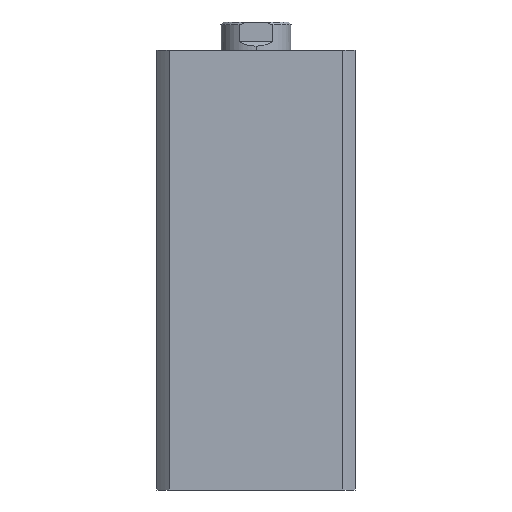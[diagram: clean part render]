
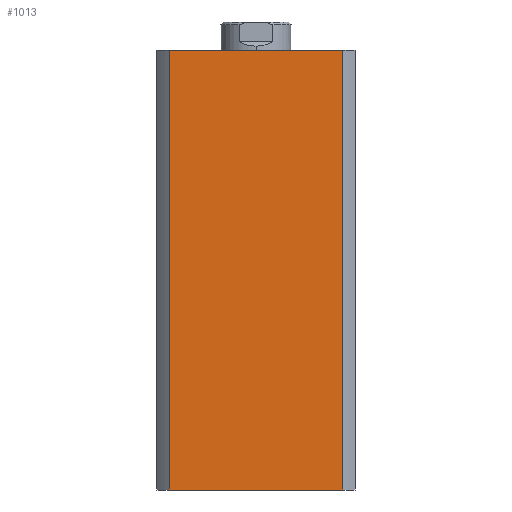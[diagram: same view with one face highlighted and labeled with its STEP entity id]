
A CAD part, left-side view. The second image highlights one B-rep face of the part: STEP entity #1013.
In plain terms, the highlighted planar face has unit normal (-1, 0, 0).
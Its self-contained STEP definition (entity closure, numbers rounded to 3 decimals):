
#172 = EDGE_CURVE ( 'NONE', #2129, #2143, #945, .T. ) ;
#298 = EDGE_CURVE ( 'NONE', #2074, #2007, #598, .T. ) ;
#521 = FACE_OUTER_BOUND ( 'NONE', #4034, .T. ) ;
#598 = LINE ( 'NONE', #1298, #601 ) ;
#601 = VECTOR ( 'NONE', #1297, 1000. ) ;
#941 = VECTOR ( 'NONE', #1172, 1000. ) ;
#945 = LINE ( 'NONE', #1170, #941 ) ;
#1013 = ADVANCED_FACE ( 'NONE', ( #521 ), #2445, .F. ) ;
#1170 = CARTESIAN_POINT ( 'NONE',  ( -35., 0., 0. ) ) ;
#1172 = DIRECTION ( 'NONE',  ( 0., -1., 0. ) ) ;
#1297 = DIRECTION ( 'NONE',  ( 0., -1., 0. ) ) ;
#1298 = CARTESIAN_POINT ( 'NONE',  ( -35., 0., 155. ) ) ;
#1516 = EDGE_CURVE ( 'NONE', #2007, #2143, #4752, .T. ) ;
#1518 = EDGE_CURVE ( 'NONE', #2074, #2129, #4748, .T. ) ;
#1750 = AXIS2_PLACEMENT_3D ( 'NONE', #2443, #2452, #2453 ) ;
#2007 = VERTEX_POINT ( 'NONE', #3752 ) ;
#2074 = VERTEX_POINT ( 'NONE', #3806 ) ;
#2129 = VERTEX_POINT ( 'NONE', #3839 ) ;
#2143 = VERTEX_POINT ( 'NONE', #3841 ) ;
#2443 = CARTESIAN_POINT ( 'NONE',  ( -35., 0., 155. ) ) ;
#2445 = PLANE ( 'NONE',  #1750 ) ;
#2452 = DIRECTION ( 'NONE',  ( 1., 0., 0. ) ) ;
#2453 = DIRECTION ( 'NONE',  ( 0., 1., 0. ) ) ;
#2594 = DIRECTION ( 'NONE',  ( 0., 0., -1. ) ) ;
#2602 = CARTESIAN_POINT ( 'NONE',  ( -35., 30.615, 155. ) ) ;
#2614 = CARTESIAN_POINT ( 'NONE',  ( -35., -30.615, 155. ) ) ;
#2616 = DIRECTION ( 'NONE',  ( 0., 0., -1. ) ) ;
#3752 = CARTESIAN_POINT ( 'NONE',  ( -35., -30.615, 155. ) ) ;
#3806 = CARTESIAN_POINT ( 'NONE',  ( -35., 30.615, 155. ) ) ;
#3839 = CARTESIAN_POINT ( 'NONE',  ( -35., 30.615, 0. ) ) ;
#3841 = CARTESIAN_POINT ( 'NONE',  ( -35., -30.615, 0. ) ) ;
#4034 = EDGE_LOOP ( 'NONE', ( #4957, #4956, #4955, #4954 ) ) ;
#4746 = VECTOR ( 'NONE', #2594, 1000. ) ;
#4748 = LINE ( 'NONE', #2602, #4746 ) ;
#4749 = VECTOR ( 'NONE', #2616, 1000. ) ;
#4752 = LINE ( 'NONE', #2614, #4749 ) ;
#4954 = ORIENTED_EDGE ( 'NONE', *, *, #1518, .T. ) ;
#4955 = ORIENTED_EDGE ( 'NONE', *, *, #298, .F. ) ;
#4956 = ORIENTED_EDGE ( 'NONE', *, *, #1516, .F. ) ;
#4957 = ORIENTED_EDGE ( 'NONE', *, *, #172, .T. ) ;
